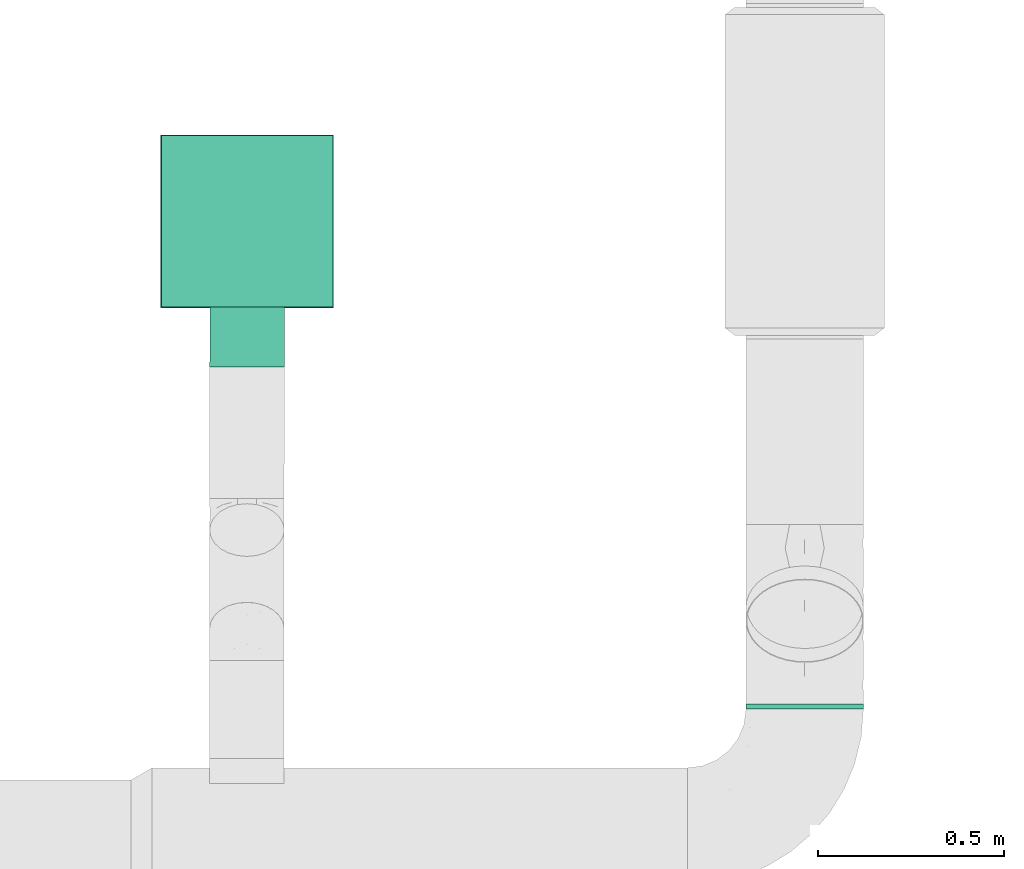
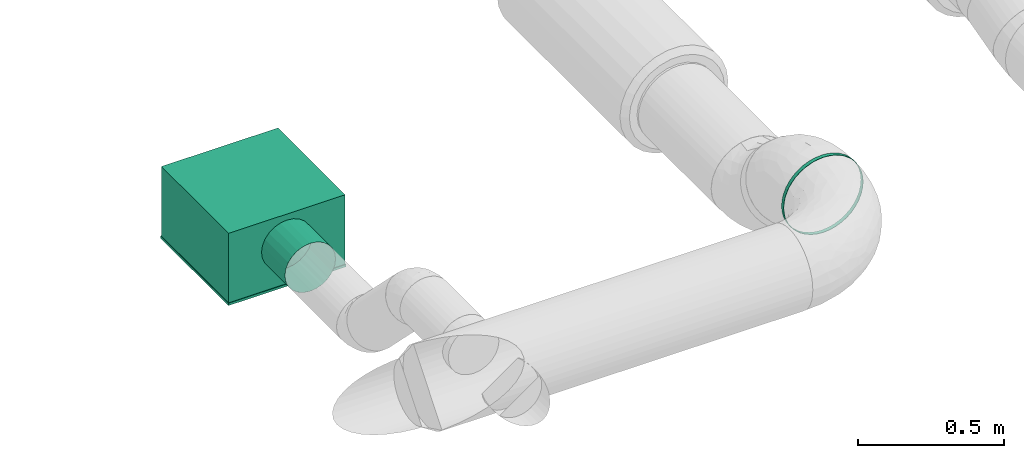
# One storey, part 10 of 63: 1 flow segment, 1 flow terminal.
"""IFC2X3 building model written with IfcOpenShell, lengths in millimetres."""

from ifc_helpers import new_model, entity, si_unit, converted_unit, derived_unit, direction, frame, origin_with_axes, origin_2d_with_axis, place, context, subcontext, project, spatial, hollow_circle, extrude, open_shell, surface_model, source, transform, mapped, type_object, element, save


model = new_model("IFC2X3")

# Units and contexts
model_context = context("Model", 3, precision=0.01, world=frame((0.0, 4.29681676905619e-09, 0.0)), true_north=direction((4.01073788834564e-13, 1.0)))
plan_context = context("Plan", 3, precision=0.01, world=frame((0.0, 4.29681676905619e-09, 0.0)), true_north=direction((4.01073788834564e-13, 1.0)))
body_context = subcontext(model_context, "Body", "Model", "MODEL_VIEW")
ifc_project = project(units=[converted_unit("PLANEANGLEUNIT", "DEGREE", entity("IfcPositiveLengthMeasure", 0.0174532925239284), si_unit("PLANEANGLEUNIT", "RADIAN"), dimensions=[0, 0, 0, 0, 0, 0, 0]), si_unit("AREAUNIT", "SQUARE_METRE"), si_unit("LENGTHUNIT", "METRE", prefix="MILLI"), si_unit("MASSUNIT", "GRAM", prefix="KILO"), si_unit("POWERUNIT", "WATT"), si_unit("PRESSUREUNIT", "PASCAL"), si_unit("FORCEUNIT", "NEWTON", prefix="KILO"), si_unit("ELECTRICVOLTAGEUNIT", "VOLT"), si_unit("ELECTRICCURRENTUNIT", "AMPERE"), si_unit("THERMODYNAMICTEMPERATUREUNIT", "DEGREE_CELSIUS"), si_unit("TIMEUNIT", "SECOND"), si_unit("VOLUMEUNIT", "CUBIC_METRE"), derived_unit("LINEARVELOCITYUNIT", [(si_unit("LENGTHUNIT", "METRE"), 1), (si_unit("TIMEUNIT", "SECOND"), -1)]), derived_unit("VOLUMETRICFLOWRATEUNIT", [(si_unit("VOLUMEUNIT", "CUBIC_METRE"), 1), (si_unit("TIMEUNIT", "SECOND"), -1)]), derived_unit("THERMALTRANSMITTANCEUNIT", [(si_unit("POWERUNIT", "WATT"), 1), (si_unit("THERMODYNAMICTEMPERATUREUNIT", "KELVIN"), -1), (si_unit("AREAUNIT", "SQUARE_METRE"), -1)]), derived_unit("SOUNDPRESSUREUNIT", [(si_unit("PRESSUREUNIT", "PASCAL"), 1)])], contexts=[model_context, plan_context])

# Site, building, storey
site_placement = place(None, frame((0.0, -4.29681676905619e-09, 0.0), z_axis=(0.0, 0.0, 1.0), x_axis=(1.0, 0.0, 0.0)))
site = spatial("IfcSite", under=ifc_project, at=site_placement, CompositionType="ELEMENT")
building_placement = place(site_placement, frame((0.0, 4.29681676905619e-09, 0.0), z_axis=(0.0, 0.0, 1.0), x_axis=(1.0, 0.0, 0.0)))
building = spatial("IfcBuilding", under=site, at=building_placement, Name="mc-building", CompositionType="ELEMENT")
storey_placement = place(building_placement, frame((0.0, 0.0, 210900.0), z_axis=(0.0, 0.0, 1.0), x_axis=(1.0, 0.0, 0.0)))
storey = spatial("IfcBuildingStorey", under=building, at=storey_placement, Name="Nivå F", CompositionType="ELEMENT", Elevation=210900.0)

# Flow segment
duct_segment_type = type_object("IfcDuctSegmentType", Name="Sirkulær kanal", PredefinedType="RIGIDSEGMENT")
shared_shape_1 = source(origin_with_axes(), body_context, "Body", "SweptSolid", [
    extrude(hollow_circle(Radius=157.5, WallThickness=2.0, at=origin_2d_with_axis()), frame((0.0, 0.0, 0.0), z_axis=(1.0, 0.0, 0.0), x_axis=(0.0, 1.0, 0.0)), (0.0, 0.0, 1.0), 14.5),
])
flow_segment_placement = place(storey_placement, frame((528399.04312, 445904.33279, 4270.0), z_axis=(0.0, 0.0, 1.0), x_axis=(0.0, -1.0, 0.0)))
element("IfcFlowSegment", 1, at=flow_segment_placement, inside=storey, type_object=duct_segment_type, Name="Sirkulær kanal", context=body_context, shape_type="MappedRepresentation", body=[
    mapped(shared_shape_1, transform((0.0, 0.0, 0.0), scale=1.0)),
])

# Flow terminal
air_terminal_type = type_object("IfcAirTerminalType", Name="NS19-H-S-2-200 - 4-way", PredefinedType="NOTDEFINED")
shared_shape_2 = source(origin_with_axes(), body_context, "Body", "SurfaceModel", [
    surface_model("IfcShellBasedSurfaceModel", [(-231.99999, 231.99999, 0.0), (-231.99999, -231.99999, 0.0), (231.99999, -231.99999, 0.0), (231.99999, 231.99999, 0.0), (231.99999, 231.99999, -10.0), (231.99999, -231.99999, -10.0), (-231.99999, -231.99999, -10.0), (-231.99999, 231.99999, -10.0), (-230.0, 230.0, 289.99999), (-230.0, -230.0, 289.99999), (230.0, -230.0, 289.99999), (230.0, 230.0, 289.99999), (230.0, 230.0, 0.0), (230.0, -230.0, 0.0), (-230.0, -230.0, 0.0), (-230.0, 230.0, 0.0), (-230.0, 50.0, 78.39746), (-230.0, 70.71068, 94.28932), (-230.0, 49.9, 78.57067), (-230.0, 25.83014, 68.6006), (-230.0, 0.0, 65.2), (-230.0, 25.8819, 68.40742), (-230.0, 0.0, 65.0), (-230.0, 70.56926, 94.43075), (-230.0, 96.59259, 139.1181), (-230.0, 99.8, 164.99999), (-230.0, 96.39939, 139.16986), (-230.0, 100.0, 164.99999), (-230.0, 86.60254, 115.0), (-230.0, 86.42934, 115.1), (-230.0, -25.83014, 68.6006), (-230.0, -25.8819, 68.40742), (-230.0, -49.9, 78.57067), (-230.0, -70.71068, 94.28932), (-230.0, -50.0, 78.39746), (-230.0, -70.56926, 94.43075), (-230.0, -86.42934, 115.1), (-230.0, -86.60254, 115.0), (-230.0, -96.39939, 139.16986), (-230.0, -96.59259, 139.1181), (-230.0, -99.8, 164.99999), (-230.0, -100.0, 164.99999), (-230.0, 96.59259, 190.8819), (-230.0, 96.39939, 190.83014), (-230.0, 86.42934, 214.9), (-230.0, 86.60254, 214.99999), (-230.0, 70.56926, 235.56925), (-230.0, 70.71068, 235.71069), (-230.0, 50.0, 251.60254), (-230.0, 49.9, 251.42933), (-230.0, 25.83014, 261.3994), (-230.0, 25.8819, 261.59259), (-230.0, 0.0, 264.80001), (-230.0, 0.0, 264.99999), (-230.0, -86.60254, 214.99999), (-230.0, -86.42934, 214.9), (-230.0, -70.71068, 235.71069), (-230.0, -70.56926, 235.56925), (-230.0, -96.59259, 190.8819), (-230.0, -96.39939, 190.83014), (-230.0, -25.83014, 261.3994), (-230.0, -25.8819, 261.59259), (-230.0, -49.9, 251.42933), (-230.0, -50.0, 251.60254), (-390.0, 50.0, 251.60254), (-390.0, 70.71068, 235.71069), (-390.0, 49.9, 251.42933), (-390.0, 25.83014, 261.3994), (-390.0, 0.0, 264.80001), (-390.0, 25.8819, 261.59259), (-390.0, 0.0, 264.99999), (-390.0, 70.56926, 235.56925), (-390.0, 96.59259, 190.8819), (-390.0, 99.8, 164.99999), (-390.0, 96.39939, 190.83014), (-390.0, 100.0, 164.99999), (-390.0, 86.60254, 214.99999), (-390.0, 86.42934, 214.9), (-390.0, -25.83014, 261.3994), (-390.0, -25.8819, 261.59259), (-390.0, -49.9, 251.42933), (-390.0, -70.71068, 235.71069), (-390.0, -50.0, 251.60254), (-390.0, -70.56926, 235.56925), (-390.0, -86.42934, 214.9), (-390.0, -86.60254, 214.99999), (-390.0, -96.39939, 190.83014), (-390.0, -96.59259, 190.8819), (-390.0, -99.8, 164.99999), (-390.0, -100.0, 164.99999), (-390.0, 96.59259, 139.1181), (-390.0, 96.39939, 139.16986), (-390.0, 86.42934, 115.1), (-390.0, 86.60254, 115.0), (-390.0, 70.56926, 94.43075), (-390.0, 70.71068, 94.28932), (-390.0, 50.0, 78.39746), (-390.0, 49.9, 78.57067), (-390.0, 25.83014, 68.6006), (-390.0, 25.8819, 68.40742), (-390.0, 0.0, 65.2), (-390.0, 0.0, 65.0), (-390.0, -86.60254, 115.0), (-390.0, -86.42934, 115.1), (-390.0, -70.71068, 94.28932), (-390.0, -70.56926, 94.43075), (-390.0, -96.59259, 139.1181), (-390.0, -96.39939, 139.16986), (-390.0, -25.83014, 68.6006), (-390.0, -25.8819, 68.40742), (-390.0, -49.9, 78.57067), (-390.0, -50.0, 78.39746)], [open_shell([[[0, 1, 2]], [[2, 3, 0]], [[4, 5, 6]], [[6, 7, 4]], [[2, 1, 6]], [[6, 5, 2]], [[3, 2, 5]], [[5, 4, 3]], [[0, 3, 4]], [[4, 7, 0]], [[1, 0, 7]], [[7, 6, 1]], [[8, 9, 10]], [[10, 11, 8]], [[12, 13, 14]], [[14, 15, 12]], [[10, 9, 13]], [[14, 13, 9]], [[11, 10, 12]], [[13, 12, 10]], [[8, 11, 15]], [[12, 15, 11]], [[9, 8, 14]], [[15, 14, 8]], [[16, 17, 18]], [[16, 18, 19]], [[20, 21, 19]], [[21, 20, 22]], [[19, 21, 16]], [[18, 17, 23]], [[24, 25, 26]], [[25, 24, 27]], [[24, 26, 28]], [[23, 28, 29]], [[28, 23, 17]], [[29, 28, 26]], [[22, 30, 31]], [[31, 30, 32]], [[33, 34, 35]], [[32, 34, 31]], [[32, 35, 34]], [[22, 20, 30]], [[36, 37, 33]], [[37, 36, 38]], [[36, 33, 35]], [[39, 38, 40]], [[38, 39, 37]], [[39, 40, 41]], [[27, 42, 43]], [[43, 42, 44]], [[44, 45, 46]], [[45, 44, 42]], [[46, 45, 47]], [[47, 48, 49]], [[49, 48, 50]], [[50, 51, 52]], [[51, 50, 48]], [[52, 51, 53]], [[49, 46, 47]], [[54, 55, 56]], [[56, 55, 57]], [[55, 54, 58]], [[41, 59, 58]], [[58, 59, 55]], [[41, 40, 59]], [[60, 53, 61]], [[60, 61, 62]], [[57, 63, 56]], [[57, 62, 63]], [[63, 62, 61]], [[52, 53, 60]], [[43, 25, 27]], [[64, 65, 66]], [[64, 66, 67]], [[68, 69, 67]], [[69, 68, 70]], [[67, 69, 64]], [[66, 65, 71]], [[72, 73, 74]], [[73, 72, 75]], [[72, 74, 76]], [[71, 76, 77]], [[76, 71, 65]], [[77, 76, 74]], [[70, 78, 79]], [[79, 78, 80]], [[81, 82, 83]], [[80, 82, 79]], [[80, 83, 82]], [[70, 68, 78]], [[84, 85, 81]], [[85, 84, 86]], [[84, 81, 83]], [[87, 86, 88]], [[86, 87, 85]], [[87, 88, 89]], [[75, 90, 91]], [[91, 90, 92]], [[92, 93, 94]], [[93, 92, 90]], [[94, 93, 95]], [[95, 96, 97]], [[97, 96, 98]], [[98, 99, 100]], [[99, 98, 96]], [[100, 99, 101]], [[97, 94, 95]], [[102, 103, 104]], [[104, 103, 105]], [[103, 102, 106]], [[89, 107, 106]], [[106, 107, 103]], [[89, 88, 107]], [[108, 101, 109]], [[108, 109, 110]], [[105, 111, 104]], [[105, 110, 111]], [[111, 110, 109]], [[100, 101, 108]], [[91, 73, 75]], [[39, 106, 102]], [[104, 37, 102]], [[34, 111, 109]], [[104, 111, 33]], [[31, 109, 101]], [[106, 41, 89]], [[106, 39, 41]], [[102, 37, 39]], [[104, 33, 37]], [[34, 33, 111]], [[109, 31, 34]], [[101, 22, 31]], [[21, 99, 96]], [[95, 16, 96]], [[28, 93, 90]], [[95, 93, 17]], [[24, 90, 75]], [[99, 21, 22]], [[96, 16, 21]], [[95, 17, 16]], [[93, 28, 17]], [[24, 28, 90]], [[75, 27, 24]], [[99, 22, 101]], [[75, 72, 42]], [[48, 64, 69]], [[64, 47, 65]], [[51, 69, 70]], [[72, 45, 42]], [[42, 27, 75]], [[76, 47, 45]], [[76, 65, 47]], [[47, 64, 48]], [[69, 51, 48]], [[76, 45, 72]], [[70, 53, 51]], [[61, 79, 82]], [[81, 63, 82]], [[54, 85, 87]], [[81, 85, 56]], [[58, 87, 89]], [[79, 61, 53]], [[82, 63, 61]], [[81, 56, 63]], [[85, 54, 56]], [[58, 54, 87]], [[89, 41, 58]], [[79, 53, 70]], [[103, 107, 38]], [[103, 36, 105]], [[108, 110, 32]], [[35, 110, 105]], [[100, 108, 30]], [[88, 40, 107]], [[40, 38, 107]], [[38, 36, 103]], [[36, 35, 105]], [[110, 35, 32]], [[32, 30, 108]], [[30, 20, 100]], [[97, 98, 19]], [[97, 18, 94]], [[91, 92, 29]], [[23, 92, 94]], [[73, 91, 26]], [[20, 19, 98]], [[19, 18, 97]], [[18, 23, 94]], [[23, 29, 92]], [[91, 29, 26]], [[26, 25, 73]], [[100, 20, 98]], [[43, 74, 73]], [[67, 66, 49]], [[71, 46, 66]], [[68, 67, 50]], [[43, 44, 74]], [[73, 25, 43]], [[44, 46, 77]], [[46, 71, 77]], [[49, 66, 46]], [[49, 50, 67]], [[74, 44, 77]], [[50, 52, 68]], [[80, 78, 60]], [[80, 62, 83]], [[86, 84, 55]], [[57, 84, 83]], [[88, 86, 59]], [[52, 60, 78]], [[60, 62, 80]], [[62, 57, 83]], [[57, 55, 84]], [[86, 55, 59]], [[59, 40, 88]], [[68, 52, 78]]])]),
])
flow_terminal_placement = place(storey_placement, frame((526903.49973, 447198.08942, 3769.99997), z_axis=(0.0, 0.0, 1.0), x_axis=(0.000647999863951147, 0.999999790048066, 0.0)))
element("IfcFlowTerminal", 2, at=flow_terminal_placement, inside=storey, type_object=air_terminal_type, Name="NS19-H-S-2-200 - 4-way", context=body_context, shape_type="MappedRepresentation", body=[
    mapped(shared_shape_2, transform((0.0, 0.0, 0.0), scale=1.0)),
])

save(model, "model.ifc")
